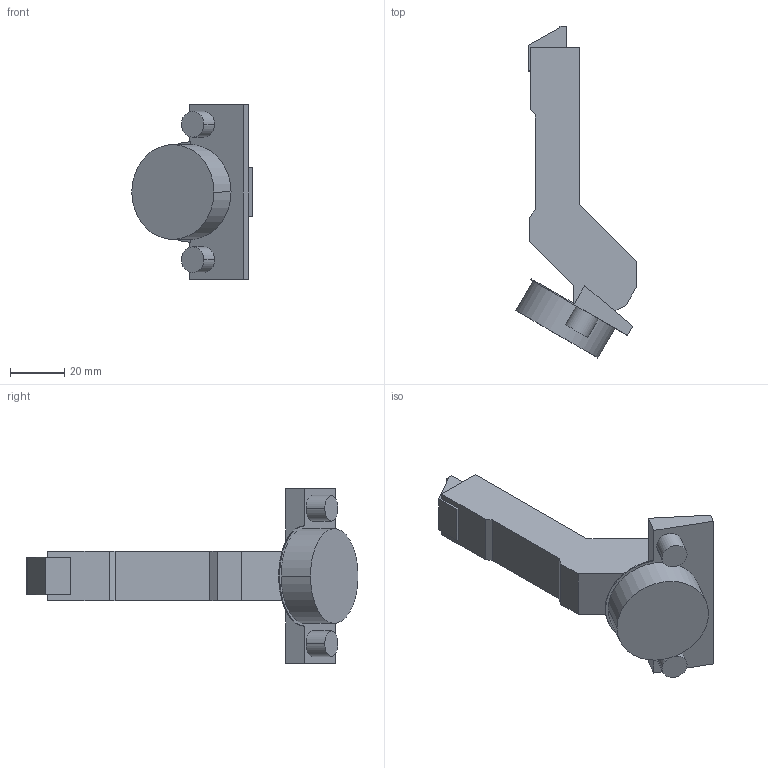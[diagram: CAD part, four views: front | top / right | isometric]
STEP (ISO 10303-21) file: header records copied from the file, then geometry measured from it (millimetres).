
FILE_DESCRIPTION (( 'STEP AP214' ), '1' );
FILE_NAME ('Scharnier T Impresso 110°_+30° HS_BB, einliegend.step', '2010-12-13T10:22:20', ( 'grass' ), ( '' ), 'SwSTEP 2.0', 'SolidWorks 2010', '' );
FILE_SCHEMA (( 'AUTOMOTIVE_DESIGN' ));
Length unit declared in the file: millimetre
Products named in the file (1): Scharnier T Impresso 110°_+30° HS_BB, einliegend
Bounding box: 44.44 x 122.51 x 64.5 mm (x, y, z)
Volume: 58015.2 mm3; surface area: 15073.9 mm2
Topology: 1 solids, 3 shells, 62 faces, 150 edges, 100 vertices
Faces by surface type: plane 44, cylinder 18
Entity records: 1840 total; most frequent: CARTESIAN_POINT 313, DIRECTION 312, ORIENTED_EDGE 300, EDGE_CURVE 150, LINE 114, VECTOR 114, VERTEX_POINT 100, AXIS2_PLACEMENT_3D 99
